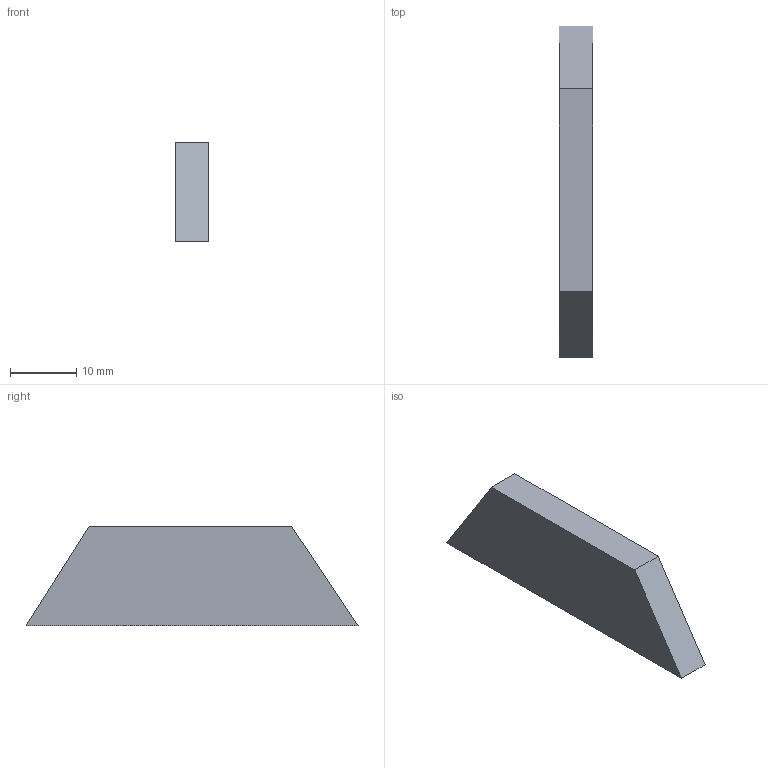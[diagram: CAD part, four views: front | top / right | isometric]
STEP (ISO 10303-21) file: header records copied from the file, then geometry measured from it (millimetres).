
FILE_DESCRIPTION(('STEP AP214'),'1');
FILE_NAME('tmp0.step','2025-05-17T13:37:01',(' '),(' '),'Spatial InterOp 3D',' ',' ');
FILE_SCHEMA(('AUTOMOTIVE_DESIGN { 1 0 10303 214 1 1 1 1 }'));
Length unit declared in the file: millimetre
Products named in the file (1): Thickness Data
Bounding box: 5 x 50 x 15 mm (x, y, z)
Volume: 3018.7 mm3; surface area: 1788.9 mm2
Topology: 1 solids, 1 shells, 6 faces, 12 edges, 8 vertices
Faces by surface type: plane 6
Entity records: 181 total; most frequent: CARTESIAN_POINT 27, DIRECTION 26, ORIENTED_EDGE 24, EDGE_CURVE 12, LINE 12, VECTOR 12, VERTEX_POINT 8, AXIS2_PLACEMENT_3D 7
